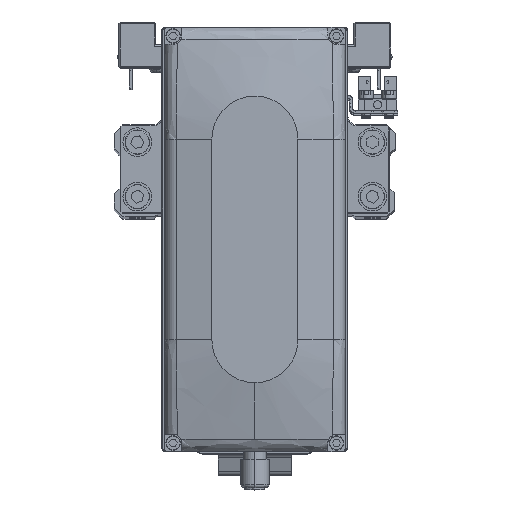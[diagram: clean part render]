
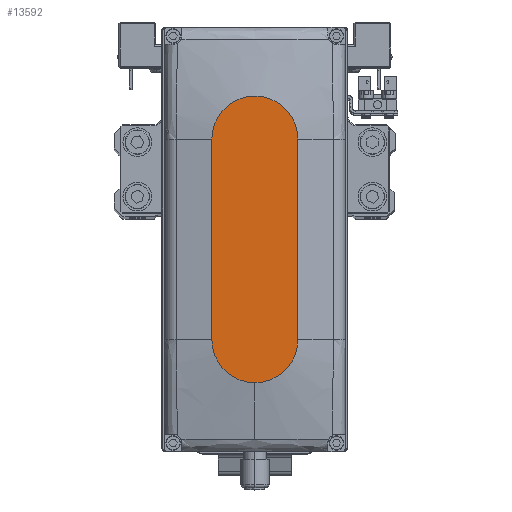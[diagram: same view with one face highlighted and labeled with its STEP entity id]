
A CAD part, top view. The second image highlights one B-rep face of the part: STEP entity #13592.
In plain terms, the highlighted planar face has unit normal (0, 0, 1).
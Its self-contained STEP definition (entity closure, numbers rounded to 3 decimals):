
#227 = ORIENTED_EDGE ( 'NONE', *, *, #3166, .T. ) ;
#823 = CARTESIAN_POINT ( 'NONE',  ( 35., 0., 35. ) ) ;
#1731 = CARTESIAN_POINT ( 'NONE',  ( 50., 0., 35. ) ) ;
#2184 = CIRCLE ( 'NONE', #25241, 15. ) ;
#2851 = DIRECTION ( 'NONE',  ( 1., 0., 0. ) ) ;
#3166 = EDGE_CURVE ( 'NONE', #36324, #32221, #2184, .T. ) ;
#3860 = AXIS2_PLACEMENT_3D ( 'NONE', #20112, #32723, #4446 ) ;
#3871 = EDGE_CURVE ( 'NONE', #32221, #24750, #31276, .T. ) ;
#4446 = DIRECTION ( 'NONE',  ( 1., 0., 0. ) ) ;
#4667 = AXIS2_PLACEMENT_3D ( 'NONE', #18519, #31122, #2851 ) ;
#4882 = CARTESIAN_POINT ( 'NONE',  ( 35., 0., 35. ) ) ;
#5781 = ORIENTED_EDGE ( 'NONE', *, *, #21894, .T. ) ;
#5942 = PLANE ( 'NONE',  #4667 ) ;
#5958 = ORIENTED_EDGE ( 'NONE', *, *, #30498, .T. ) ;
#7041 = CARTESIAN_POINT ( 'NONE',  ( 35., -15., 35. ) ) ;
#9564 = LINE ( 'NONE', #22143, #40568 ) ;
#10067 = ORIENTED_EDGE ( 'NONE', *, *, #35720, .T. ) ;
#10661 = CARTESIAN_POINT ( 'NONE',  ( -35., -15., 35. ) ) ;
#13416 = DIRECTION ( 'NONE',  ( 0., 0., 1. ) ) ;
#13490 = AXIS2_PLACEMENT_3D ( 'NONE', #4882, #17463, #30058 ) ;
#13592 = ADVANCED_FACE ( 'NONE', ( #34233 ), #5942, .T. ) ;
#17463 = DIRECTION ( 'NONE',  ( 0., 0., 1. ) ) ;
#17880 = CARTESIAN_POINT ( 'NONE',  ( -35., -15., 35. ) ) ;
#18519 = CARTESIAN_POINT ( 'NONE',  ( 0., 0., 35. ) ) ;
#19146 = CARTESIAN_POINT ( 'NONE',  ( 35., 15., 35. ) ) ;
#20112 = CARTESIAN_POINT ( 'NONE',  ( -35., 0., 35. ) ) ;
#21631 = CIRCLE ( 'NONE', #3860, 15. ) ;
#21894 = EDGE_CURVE ( 'NONE', #24750, #30879, #9564, .T. ) ;
#22143 = CARTESIAN_POINT ( 'NONE',  ( -35., 15., 35. ) ) ;
#23253 = DIRECTION ( 'NONE',  ( 1., 0., 0. ) ) ;
#24652 = EDGE_LOOP ( 'NONE', ( #5781, #5958, #10067, #227, #37355 ) ) ;
#24750 = VERTEX_POINT ( 'NONE', #19146 ) ;
#25241 = AXIS2_PLACEMENT_3D ( 'NONE', #823, #13416, #26005 ) ;
#26005 = DIRECTION ( 'NONE',  ( 1., 0., 0. ) ) ;
#29047 = VERTEX_POINT ( 'NONE', #17880 ) ;
#30058 = DIRECTION ( 'NONE',  ( 1., 0., 0. ) ) ;
#30498 = EDGE_CURVE ( 'NONE', #30879, #29047, #21631, .T. ) ;
#30879 = VERTEX_POINT ( 'NONE', #32269 ) ;
#31122 = DIRECTION ( 'NONE',  ( 0., 0., 1. ) ) ;
#31276 = CIRCLE ( 'NONE', #13490, 15. ) ;
#32221 = VERTEX_POINT ( 'NONE', #1731 ) ;
#32269 = CARTESIAN_POINT ( 'NONE',  ( -35., 15., 35. ) ) ;
#32600 = VECTOR ( 'NONE', #23253, 1000. ) ;
#32723 = DIRECTION ( 'NONE',  ( 0., 0., 1. ) ) ;
#34233 = FACE_OUTER_BOUND ( 'NONE', #24652, .T. ) ;
#34762 = DIRECTION ( 'NONE',  ( -1., 0., 0. ) ) ;
#35720 = EDGE_CURVE ( 'NONE', #29047, #36324, #38978, .T. ) ;
#36324 = VERTEX_POINT ( 'NONE', #7041 ) ;
#37355 = ORIENTED_EDGE ( 'NONE', *, *, #3871, .T. ) ;
#38978 = LINE ( 'NONE', #10661, #32600 ) ;
#40568 = VECTOR ( 'NONE', #34762, 1000. ) ;
